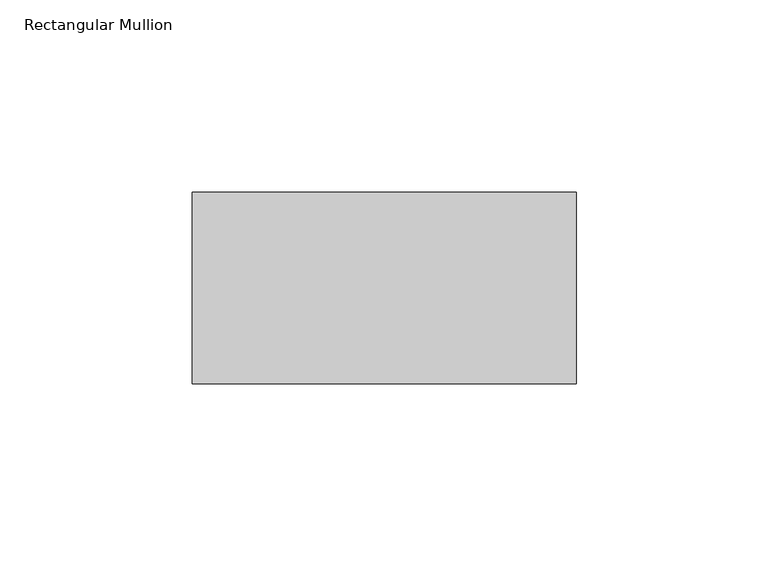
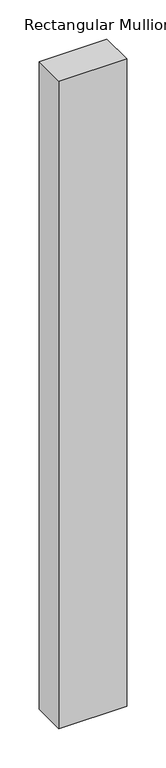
"""IFC4 building model written with IfcOpenShell, lengths in millimetres: member geometry, Rectangular Mullion : Mullion_Curtain Wall_Generic Showcase_50x100mm."""

from ifc_helpers import new_model, si_unit, frame, origin, place, context, project, spatial, polyline, outline, extrude, source, transform, mapped, element, save


def rectangular_mullion_8e28913d(model_context):
    return source(origin(), model_context, "Body", "SweptSolid", [
        extrude(outline(polyline([(0.0, 50.0), (0.0, 0.0), (-100.0, 0.0), (-100.0, 50.0), (0.0, 50.0)])), frame((0.0, 0.0, -1010.0), z_axis=(0.0, 0.0, 1.0), x_axis=(1.0, 0.0, 0.0)), (0.0, 0.0, 1.0), 1010.0),
    ])


if __name__ == "__main__":
    model = new_model("IFC4")
    model_context = context("Model", 3, world=origin())
    ifc_project = project(units=[si_unit("LENGTHUNIT", "METRE", prefix="MILLI")], contexts=[model_context])
    site = spatial("IfcSite", under=ifc_project)
    building = spatial("IfcBuilding", under=site)
    placement = place(None, origin())
    rectangular_mullion_shape = rectangular_mullion_8e28913d(model_context)
    element("IfcMember", 1, ObjectType="Rectangular Mullion : Mullion_Curtain Wall_Generic Showcase_50x100mm", at=placement, inside=building, context=model_context, shape_type="MappedRepresentation", body=[
        mapped(rectangular_mullion_shape, transform((0.0, 0.0, 0.0), x_axis=(1.0, 0.0, 0.0), y_axis=(0.0, 1.0, 0.0), z_axis=(0.0, 0.0, 1.0))),
    ])
    save(model, "model.ifc")
